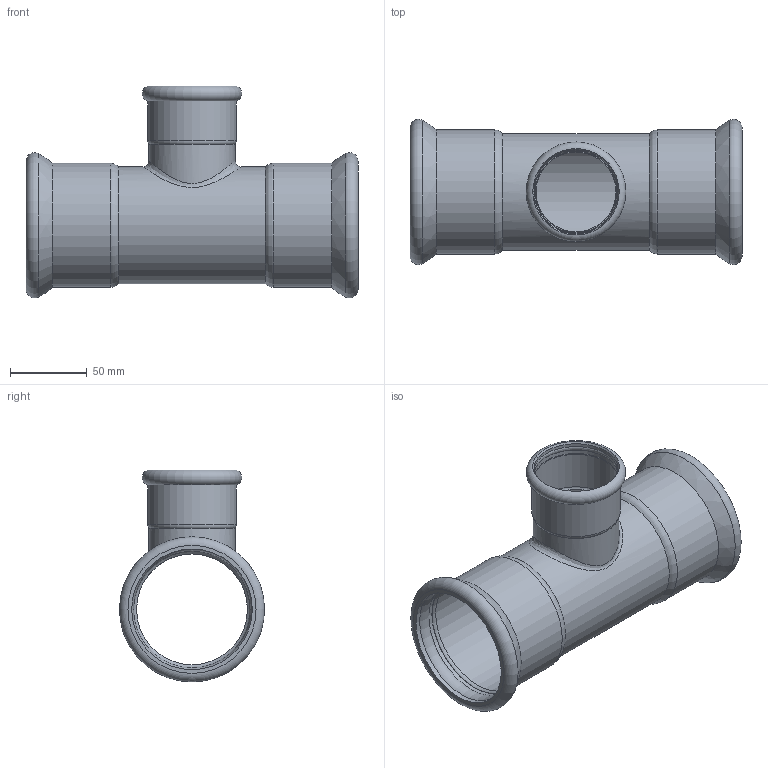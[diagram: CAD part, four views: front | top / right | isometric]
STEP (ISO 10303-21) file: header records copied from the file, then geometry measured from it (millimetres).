
FILE_DESCRIPTION(/* description */ ('TEE RIDOTTO 76,1-54-76,1'),/* implementation_level */ '2;1');
FILE_NAME(/* name */ 'T:\A_ARTICOLI\ARTICOLI PRODOTTI_WEB\Articoli_STEELPRES_WEB\Temporary Step\392076054_Steelpres.ipt.step',/* time_stamp */ '2016-01-19T16:43:07+01:00',/* author */ ('Ghirlinghelli Diego'),/* organization */ (''),/* preprocessor_version */ 'ST-DEVELOPER v15.2',/* originating_system */ 'Autodesk Inventor 2014',/* authorisation */ 'R.M. S.p.A. si riserva a termini di legge la proprietà del presente disegno con divieto di riprodurlo o comunicarlo a terzi senza sua autorizzazione scritta');
FILE_SCHEMA (('AUTOMOTIVE_DESIGN { 1 0 10303 214 3 1 1 }'));
Length unit declared in the file: millimetre
Products named in the file (1): 392076054_Steelpres
Bounding box: 216 x 94.49 x 137.9 mm (x, y, z)
Volume: 160555.3 mm3; surface area: 126538.2 mm2
Topology: 1 solids, 1 shells, 42 faces, 98 edges, 59 vertices
Faces by surface type: cylinder 17, torus 15, bspline 4, cone 3, plane 3
Full cylindrical faces by diameter (mm): 52 x1, 53 x1, 54.5 x1, 54.7 x2, 56 x1, 57.5 x1, 72.1 x1, 76.1 x1, 76.7 x2, 78.5 x4, 80.7 x2
Entity records: 1399 total; most frequent: CARTESIAN_POINT 624, DIRECTION 168, ORIENTED_EDGE 102, AXIS2_PLACEMENT_3D 84, EDGE_LOOP 82, EDGE_CURVE 51, VERTEX_POINT 47, CIRCLE 45
